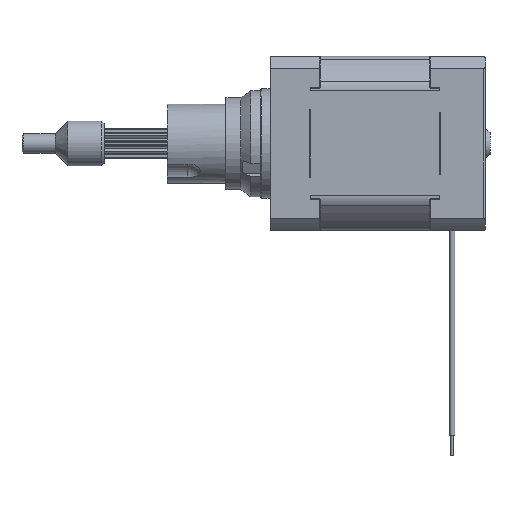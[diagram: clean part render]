
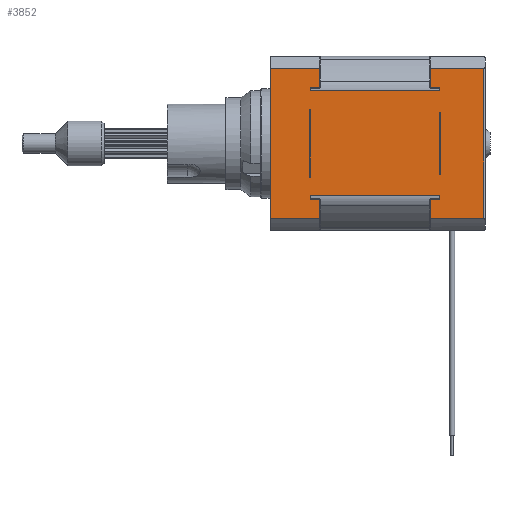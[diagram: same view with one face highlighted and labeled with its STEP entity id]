
A CAD part, top view. The second image highlights one B-rep face of the part: STEP entity #3852.
In plain terms, the highlighted planar face has unit normal (0, 0, 1).
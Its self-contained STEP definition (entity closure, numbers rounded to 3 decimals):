
#524=CARTESIAN_POINT('',(34.,-10.541,17.5));
#525=VERTEX_POINT('',#524);
#533=CARTESIAN_POINT('',(8.,-10.541,17.5));
#534=VERTEX_POINT('',#533);
#535=CARTESIAN_POINT('',(34.,-10.541,17.5));
#536=DIRECTION('',(-1.,0.,0.));
#537=VECTOR('',#536,26.);
#538=LINE('',#535,#537);
#539=EDGE_CURVE('',#525,#534,#538,.T.);
#564=CARTESIAN_POINT('',(34.,10.541,17.5));
#565=VERTEX_POINT('',#564);
#633=CARTESIAN_POINT('',(8.,10.541,17.5));
#634=VERTEX_POINT('',#633);
#642=CARTESIAN_POINT('',(8.,10.541,17.5));
#643=DIRECTION('',(1.,0.,0.));
#644=VECTOR('',#643,26.);
#645=LINE('',#642,#644);
#646=EDGE_CURVE('',#634,#565,#645,.T.);
#3309=CARTESIAN_POINT('',(9.9,-11.098,17.5));
#3310=VERTEX_POINT('',#3309);
#3319=CARTESIAN_POINT('',(9.9,-15.078,17.5));
#3320=VERTEX_POINT('',#3319);
#3321=CARTESIAN_POINT('',(9.9,-11.098,17.5));
#3322=DIRECTION('',(0.,-1.,0.));
#3323=VECTOR('',#3322,3.98);
#3324=LINE('',#3321,#3323);
#3325=EDGE_CURVE('',#3310,#3320,#3324,.T.);
#3644=CARTESIAN_POINT('',(20.55,0.,17.5));
#3645=DIRECTION('',(0.,-1.,0.));
#3646=DIRECTION('',(0.,0.,1.));
#3647=AXIS2_PLACEMENT_3D('',#3644,#3646,#3645);
#3648=PLANE('',#3647);
#3649=CARTESIAN_POINT('',(34.,-11.098,17.5));
#3650=VERTEX_POINT('',#3649);
#3651=CARTESIAN_POINT('',(34.,-10.541,17.5));
#3652=DIRECTION('',(0.,-1.,0.));
#3653=VECTOR('',#3652,0.557);
#3654=LINE('',#3651,#3653);
#3655=EDGE_CURVE('',#525,#3650,#3654,.T.);
#3656=ORIENTED_EDGE('E350',*,*,#3655,.T.);
#3657=CARTESIAN_POINT('',(32.1,-11.098,17.5));
#3658=VERTEX_POINT('',#3657);
#3659=CARTESIAN_POINT('',(34.,-11.098,17.5));
#3660=DIRECTION('',(-1.,0.,0.));
#3661=VECTOR('',#3660,1.9);
#3662=LINE('',#3659,#3661);
#3663=EDGE_CURVE('',#3650,#3658,#3662,.T.);
#3664=ORIENTED_EDGE('E351',*,*,#3663,.T.);
#3665=CARTESIAN_POINT('',(32.1,-15.078,17.5));
#3666=VERTEX_POINT('',#3665);
#3667=CARTESIAN_POINT('',(32.1,-11.098,17.5));
#3668=DIRECTION('',(0.,-1.,0.));
#3669=VECTOR('',#3668,3.98);
#3670=LINE('',#3667,#3669);
#3671=EDGE_CURVE('',#3658,#3666,#3670,.T.);
#3672=ORIENTED_EDGE('E352',*,*,#3671,.T.);
#3673=CARTESIAN_POINT('',(42.8,-15.078,17.5));
#3674=VERTEX_POINT('',#3673);
#3675=CARTESIAN_POINT('',(32.1,-15.078,17.5));
#3676=DIRECTION('',(1.,0.,0.));
#3677=VECTOR('',#3676,10.7);
#3678=LINE('',#3675,#3677);
#3679=EDGE_CURVE('',#3666,#3674,#3678,.T.);
#3680=ORIENTED_EDGE('E353',*,*,#3679,.T.);
#3681=CARTESIAN_POINT('',(42.8,15.078,17.5));
#3682=VERTEX_POINT('',#3681);
#3683=CARTESIAN_POINT('',(42.8,-15.078,17.5));
#3684=DIRECTION('',(0.,1.,0.));
#3685=VECTOR('',#3684,30.157);
#3686=LINE('',#3683,#3685);
#3687=EDGE_CURVE('',#3674,#3682,#3686,.T.);
#3688=ORIENTED_EDGE('E354',*,*,#3687,.T.);
#3689=CARTESIAN_POINT('',(32.1,15.078,17.5));
#3690=VERTEX_POINT('',#3689);
#3691=CARTESIAN_POINT('',(42.8,15.078,17.5));
#3692=DIRECTION('',(-1.,0.,0.));
#3693=VECTOR('',#3692,10.7);
#3694=LINE('',#3691,#3693);
#3695=EDGE_CURVE('',#3682,#3690,#3694,.T.);
#3696=ORIENTED_EDGE('E355',*,*,#3695,.T.);
#3697=CARTESIAN_POINT('',(32.1,11.098,17.5));
#3698=VERTEX_POINT('',#3697);
#3699=CARTESIAN_POINT('',(32.1,15.078,17.5));
#3700=DIRECTION('',(0.,-1.,0.));
#3701=VECTOR('',#3700,3.98);
#3702=LINE('',#3699,#3701);
#3703=EDGE_CURVE('',#3690,#3698,#3702,.T.);
#3704=ORIENTED_EDGE('E356',*,*,#3703,.T.);
#3705=CARTESIAN_POINT('',(34.,11.098,17.5));
#3706=VERTEX_POINT('',#3705);
#3707=CARTESIAN_POINT('',(32.1,11.098,17.5));
#3708=DIRECTION('',(1.,0.,0.));
#3709=VECTOR('',#3708,1.9);
#3710=LINE('',#3707,#3709);
#3711=EDGE_CURVE('',#3698,#3706,#3710,.T.);
#3712=ORIENTED_EDGE('E357',*,*,#3711,.T.);
#3713=CARTESIAN_POINT('',(34.,11.098,17.5));
#3714=DIRECTION('',(0.,-1.,0.));
#3715=VECTOR('',#3714,0.557);
#3716=LINE('',#3713,#3715);
#3717=EDGE_CURVE('',#3706,#565,#3716,.T.);
#3718=ORIENTED_EDGE('E358',*,*,#3717,.T.);
#3719=ORIENTED_EDGE('E358',*,*,#646,.F.);
#3720=CARTESIAN_POINT('',(8.,11.098,17.5));
#3721=VERTEX_POINT('',#3720);
#3722=CARTESIAN_POINT('',(8.,10.541,17.5));
#3723=DIRECTION('',(0.,1.,0.));
#3724=VECTOR('',#3723,0.557);
#3725=LINE('',#3722,#3724);
#3726=EDGE_CURVE('',#634,#3721,#3725,.T.);
#3727=ORIENTED_EDGE('E359',*,*,#3726,.T.);
#3728=CARTESIAN_POINT('',(9.9,11.098,17.5));
#3729=VERTEX_POINT('',#3728);
#3730=CARTESIAN_POINT('',(8.,11.098,17.5));
#3731=DIRECTION('',(1.,0.,0.));
#3732=VECTOR('',#3731,1.9);
#3733=LINE('',#3730,#3732);
#3734=EDGE_CURVE('',#3721,#3729,#3733,.T.);
#3735=ORIENTED_EDGE('E360',*,*,#3734,.T.);
#3736=CARTESIAN_POINT('',(9.9,15.078,17.5));
#3737=VERTEX_POINT('',#3736);
#3738=CARTESIAN_POINT('',(9.9,11.098,17.5));
#3739=DIRECTION('',(0.,1.,0.));
#3740=VECTOR('',#3739,3.98);
#3741=LINE('',#3738,#3740);
#3742=EDGE_CURVE('',#3729,#3737,#3741,.T.);
#3743=ORIENTED_EDGE('E361',*,*,#3742,.T.);
#3744=CARTESIAN_POINT('',(0.,15.078,17.5));
#3745=VERTEX_POINT('',#3744);
#3746=CARTESIAN_POINT('',(9.9,15.078,17.5));
#3747=DIRECTION('',(-1.,0.,0.));
#3748=VECTOR('',#3747,9.9);
#3749=LINE('',#3746,#3748);
#3750=EDGE_CURVE('',#3737,#3745,#3749,.T.);
#3751=ORIENTED_EDGE('E362',*,*,#3750,.T.);
#3752=CARTESIAN_POINT('',(0.,-15.078,17.5));
#3753=VERTEX_POINT('',#3752);
#3754=CARTESIAN_POINT('',(0.,15.078,17.5));
#3755=DIRECTION('',(0.,-1.,0.));
#3756=VECTOR('',#3755,30.157);
#3757=LINE('',#3754,#3756);
#3758=EDGE_CURVE('',#3745,#3753,#3757,.T.);
#3759=ORIENTED_EDGE('E363',*,*,#3758,.T.);
#3760=CARTESIAN_POINT('',(0.,-15.078,17.5));
#3761=DIRECTION('',(1.,0.,0.));
#3762=VECTOR('',#3761,9.9);
#3763=LINE('',#3760,#3762);
#3764=EDGE_CURVE('',#3753,#3320,#3763,.T.);
#3765=ORIENTED_EDGE('E364',*,*,#3764,.T.);
#3766=ORIENTED_EDGE('E364',*,*,#3325,.F.);
#3767=CARTESIAN_POINT('',(8.,-11.098,17.5));
#3768=VERTEX_POINT('',#3767);
#3769=CARTESIAN_POINT('',(9.9,-11.098,17.5));
#3770=DIRECTION('',(-1.,0.,0.));
#3771=VECTOR('',#3770,1.9);
#3772=LINE('',#3769,#3771);
#3773=EDGE_CURVE('',#3310,#3768,#3772,.T.);
#3774=ORIENTED_EDGE('E365',*,*,#3773,.T.);
#3775=CARTESIAN_POINT('',(8.,-11.098,17.5));
#3776=DIRECTION('',(0.,1.,0.));
#3777=VECTOR('',#3776,0.557);
#3778=LINE('',#3775,#3777);
#3779=EDGE_CURVE('',#3768,#534,#3778,.T.);
#3780=ORIENTED_EDGE('E366',*,*,#3779,.T.);
#3781=ORIENTED_EDGE('E366',*,*,#539,.F.);
#3782=EDGE_LOOP('',(#3656,#3664,#3672,#3680,#3688,#3696,#3704,#3712,#3718,#3719,#3727,#3735,#3743,#3751,#3759,#3765,#3766,#3774,#3780,#3781));
#3783=FACE_OUTER_BOUND('',#3782,.T.);
#3784=CARTESIAN_POINT('',(8.,-6.591,17.5));
#3785=VERTEX_POINT('',#3784);
#3786=CARTESIAN_POINT('',(7.8,-6.591,17.5));
#3787=VERTEX_POINT('',#3786);
#3788=CARTESIAN_POINT('',(8.,-6.591,17.5));
#3789=DIRECTION('',(-1.,0.,0.));
#3790=VECTOR('',#3789,0.2);
#3791=LINE('',#3788,#3790);
#3792=EDGE_CURVE('',#3785,#3787,#3791,.T.);
#3793=ORIENTED_EDGE('E367',*,*,#3792,.T.);
#3794=CARTESIAN_POINT('',(7.8,6.591,17.5));
#3795=VERTEX_POINT('',#3794);
#3796=CARTESIAN_POINT('',(7.8,-6.591,17.5));
#3797=DIRECTION('',(0.,1.,0.));
#3798=VECTOR('',#3797,13.182);
#3799=LINE('',#3796,#3798);
#3800=EDGE_CURVE('',#3787,#3795,#3799,.T.);
#3801=ORIENTED_EDGE('E368',*,*,#3800,.T.);
#3802=CARTESIAN_POINT('',(8.,6.591,17.5));
#3803=VERTEX_POINT('',#3802);
#3804=CARTESIAN_POINT('',(7.8,6.591,17.5));
#3805=DIRECTION('',(1.,0.,0.));
#3806=VECTOR('',#3805,0.2);
#3807=LINE('',#3804,#3806);
#3808=EDGE_CURVE('',#3795,#3803,#3807,.T.);
#3809=ORIENTED_EDGE('E369',*,*,#3808,.T.);
#3810=CARTESIAN_POINT('',(8.,6.591,17.5));
#3811=DIRECTION('',(0.,-1.,0.));
#3812=VECTOR('',#3811,13.182);
#3813=LINE('',#3810,#3812);
#3814=EDGE_CURVE('',#3803,#3785,#3813,.T.);
#3815=ORIENTED_EDGE('E370',*,*,#3814,.T.);
#3816=EDGE_LOOP('',(#3793,#3801,#3809,#3815));
#3817=FACE_BOUND('',#3816,.T.);
#3818=CARTESIAN_POINT('',(34.,-6.061,17.5));
#3819=VERTEX_POINT('',#3818);
#3820=CARTESIAN_POINT('',(34.,6.061,17.5));
#3821=VERTEX_POINT('',#3820);
#3822=CARTESIAN_POINT('',(34.,-6.061,17.5));
#3823=DIRECTION('',(0.,1.,0.));
#3824=VECTOR('',#3823,12.123);
#3825=LINE('',#3822,#3824);
#3826=EDGE_CURVE('',#3819,#3821,#3825,.T.);
#3827=ORIENTED_EDGE('E371',*,*,#3826,.T.);
#3828=CARTESIAN_POINT('',(34.2,6.061,17.5));
#3829=VERTEX_POINT('',#3828);
#3830=CARTESIAN_POINT('',(34.,6.061,17.5));
#3831=DIRECTION('',(1.,0.,0.));
#3832=VECTOR('',#3831,0.2);
#3833=LINE('',#3830,#3832);
#3834=EDGE_CURVE('',#3821,#3829,#3833,.T.);
#3835=ORIENTED_EDGE('E372',*,*,#3834,.T.);
#3836=CARTESIAN_POINT('',(34.2,-6.061,17.5));
#3837=VERTEX_POINT('',#3836);
#3838=CARTESIAN_POINT('',(34.2,6.061,17.5));
#3839=DIRECTION('',(0.,-1.,0.));
#3840=VECTOR('',#3839,12.123);
#3841=LINE('',#3838,#3840);
#3842=EDGE_CURVE('',#3829,#3837,#3841,.T.);
#3843=ORIENTED_EDGE('E373',*,*,#3842,.T.);
#3844=CARTESIAN_POINT('',(34.2,-6.061,17.5));
#3845=DIRECTION('',(-1.,0.,0.));
#3846=VECTOR('',#3845,0.2);
#3847=LINE('',#3844,#3846);
#3848=EDGE_CURVE('',#3837,#3819,#3847,.T.);
#3849=ORIENTED_EDGE('E374',*,*,#3848,.T.);
#3850=EDGE_LOOP('',(#3827,#3835,#3843,#3849));
#3851=FACE_BOUND('',#3850,.T.);
#3852=ADVANCED_FACE('F95',(#3783,#3817,#3851),#3648,.T.);
